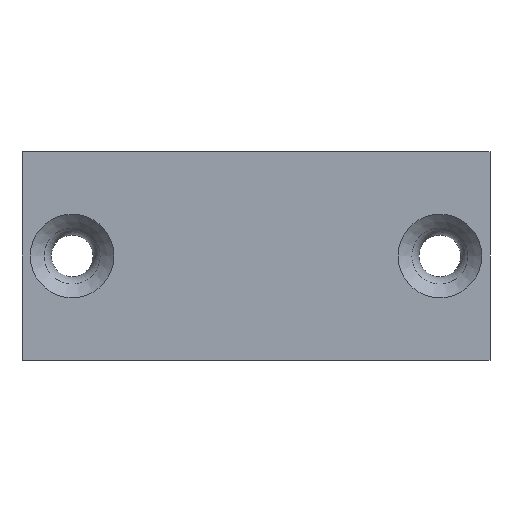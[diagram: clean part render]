
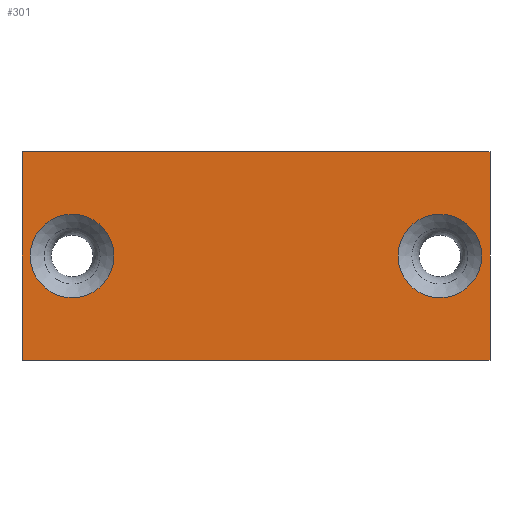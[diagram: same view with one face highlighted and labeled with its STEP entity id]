
A CAD part, front view. The second image highlights one B-rep face of the part: STEP entity #301.
In plain terms, the highlighted planar face has unit normal (0, -1, 0).
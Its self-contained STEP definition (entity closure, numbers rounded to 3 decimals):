
#15=FACE_BOUND('',#112,.T.);
#16=FACE_BOUND('',#113,.T.);
#19=PLANE('',#345);
#35=LINE('',#485,#63);
#36=LINE('',#487,#64);
#37=LINE('',#489,#65);
#38=LINE('',#490,#66);
#63=VECTOR('',#403,10.);
#64=VECTOR('',#404,10.);
#65=VECTOR('',#405,10.);
#66=VECTOR('',#406,10.);
#95=FACE_OUTER_BOUND('',#111,.T.);
#111=EDGE_LOOP('',(#241,#242,#243,#244));
#112=EDGE_LOOP('',(#245));
#113=EDGE_LOOP('',(#246));
#130=CIRCLE('',#332,5.);
#137=CIRCLE('',#342,5.);
#143=VERTEX_POINT('',#457);
#149=VERTEX_POINT('',#475);
#151=VERTEX_POINT('',#483);
#152=VERTEX_POINT('',#484);
#153=VERTEX_POINT('',#486);
#154=VERTEX_POINT('',#488);
#172=EDGE_CURVE('',#143,#143,#130,.T.);
#181=EDGE_CURVE('',#149,#149,#137,.T.);
#185=EDGE_CURVE('',#151,#152,#35,.T.);
#186=EDGE_CURVE('',#153,#152,#36,.T.);
#187=EDGE_CURVE('',#154,#153,#37,.T.);
#188=EDGE_CURVE('',#151,#154,#38,.T.);
#241=ORIENTED_EDGE('',*,*,#185,.T.);
#242=ORIENTED_EDGE('',*,*,#186,.F.);
#243=ORIENTED_EDGE('',*,*,#187,.F.);
#244=ORIENTED_EDGE('',*,*,#188,.F.);
#245=ORIENTED_EDGE('',*,*,#181,.F.);
#246=ORIENTED_EDGE('',*,*,#172,.F.);
#301=ADVANCED_FACE('',(#95,#15,#16),#19,.T.);
#332=AXIS2_PLACEMENT_3D('',#458,#371,#372);
#342=AXIS2_PLACEMENT_3D('',#476,#393,#394);
#345=AXIS2_PLACEMENT_3D('',#482,#401,#402);
#371=DIRECTION('center_axis',(0.,-1.,0.));
#372=DIRECTION('ref_axis',(1.,0.,0.));
#393=DIRECTION('center_axis',(0.,-1.,0.));
#394=DIRECTION('ref_axis',(1.,0.,0.));
#401=DIRECTION('center_axis',(0.,-1.,0.));
#402=DIRECTION('ref_axis',(1.,0.,0.));
#403=DIRECTION('',(0.,0.,1.));
#404=DIRECTION('',(1.,0.,0.));
#405=DIRECTION('',(0.,0.,1.));
#406=DIRECTION('',(-1.,0.,0.));
#457=CARTESIAN_POINT('',(17.,-3.5,0.));
#458=CARTESIAN_POINT('Origin',(22.,-3.5,0.));
#475=CARTESIAN_POINT('',(-27.,-3.5,0.));
#476=CARTESIAN_POINT('Origin',(-22.,-3.5,0.));
#482=CARTESIAN_POINT('Origin',(-28.,-3.5,0.));
#483=CARTESIAN_POINT('',(28.,-3.5,-12.5));
#484=CARTESIAN_POINT('',(28.,-3.5,12.5));
#485=CARTESIAN_POINT('',(28.,-3.5,0.));
#486=CARTESIAN_POINT('',(-28.,-3.5,12.5));
#487=CARTESIAN_POINT('',(28.,-3.5,12.5));
#488=CARTESIAN_POINT('',(-28.,-3.5,-12.5));
#489=CARTESIAN_POINT('',(-28.,-3.5,0.));
#490=CARTESIAN_POINT('',(28.,-3.5,-12.5));
